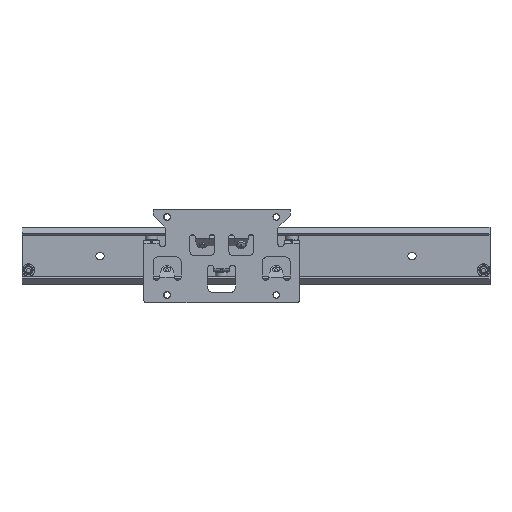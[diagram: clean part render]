
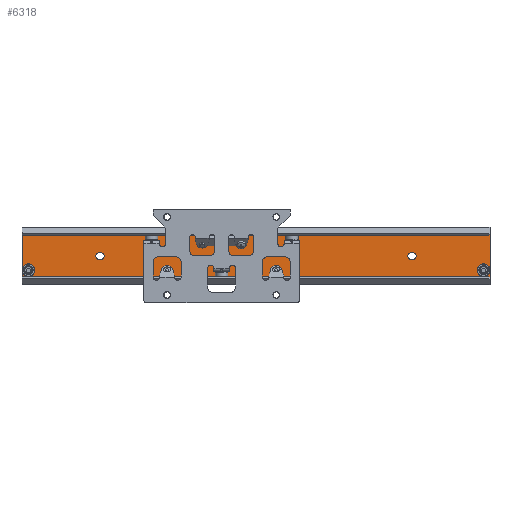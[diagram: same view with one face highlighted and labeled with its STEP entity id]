
A CAD part, top view. The second image highlights one B-rep face of the part: STEP entity #6318.
In plain terms, the highlighted planar face has unit normal (0, 0, 1).
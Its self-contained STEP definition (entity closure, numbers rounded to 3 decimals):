
#6149=CARTESIAN_POINT('',(306.032,407.71,-28.214));
#6150=VERTEX_POINT('',#6149);
#6151=CARTESIAN_POINT('',(306.032,441.71,-28.214));
#6152=VERTEX_POINT('',#6151);
#6153=CARTESIAN_POINT('',(306.032,441.71,-28.214));
#6154=DIRECTION('',(0.,1.,0.));
#6155=VECTOR('',#6154,1.);
#6156=LINE('',#6153,#6155);
#6157=EDGE_CURVE('',#6150,#6152,#6156,.T.);
#6158=ORIENTED_EDGE('',*,*,#6157,.T.);
#6159=CARTESIAN_POINT('',(6.032,441.71,-28.214));
#6160=VERTEX_POINT('',#6159);
#6161=CARTESIAN_POINT('',(6.032,441.71,-28.214));
#6162=DIRECTION('',(1.,0.,0.));
#6163=VECTOR('',#6162,1.);
#6164=LINE('',#6161,#6163);
#6165=EDGE_CURVE('',#6160,#6152,#6164,.T.);
#6166=ORIENTED_EDGE('',*,*,#6165,.F.);
#6167=CARTESIAN_POINT('',(6.032,407.71,-28.214));
#6168=VERTEX_POINT('',#6167);
#6169=CARTESIAN_POINT('',(6.032,441.71,-28.214));
#6170=DIRECTION('',(0.,-1.,0.));
#6171=VECTOR('',#6170,1.);
#6172=LINE('',#6169,#6171);
#6173=EDGE_CURVE('',#6160,#6168,#6172,.T.);
#6174=ORIENTED_EDGE('',*,*,#6173,.T.);
#6175=CARTESIAN_POINT('',(6.032,407.71,-28.214));
#6176=DIRECTION('',(1.,0.,0.));
#6177=VECTOR('',#6176,1.);
#6178=LINE('',#6175,#6177);
#6179=EDGE_CURVE('',#6168,#6150,#6178,.T.);
#6180=ORIENTED_EDGE('',*,*,#6179,.T.);
#6181=EDGE_LOOP('',(#6158,#6166,#6174,#6180));
#6182=FACE_OUTER_BOUND('',#6181,.T.);
#6183=CARTESIAN_POINT('',(300.579,415.71,-28.214));
#6184=VERTEX_POINT('',#6183);
#6185=CARTESIAN_POINT('',(301.932,415.71,-28.214));
#6186=DIRECTION('',(0.,0.,-1.));
#6187=DIRECTION('',(1.,0.,0.));
#6188=AXIS2_PLACEMENT_3D('',#6185,#6186,#6187);
#6189=CIRCLE('',#6188,1.353);
#6190=EDGE_CURVE('',#6184,#6184,#6189,.T.);
#6191=ORIENTED_EDGE('',*,*,#6190,.T.);
#6192=EDGE_LOOP('',(#6191));
#6193=FACE_BOUND('',#6192,.T.);
#6194=CARTESIAN_POINT('',(11.485,415.71,-28.214));
#6195=VERTEX_POINT('',#6194);
#6196=CARTESIAN_POINT('',(10.132,415.71,-28.214));
#6197=DIRECTION('',(0.,0.,-1.));
#6198=DIRECTION('',(-1.,0.,0.));
#6199=AXIS2_PLACEMENT_3D('',#6196,#6197,#6198);
#6200=CIRCLE('',#6199,1.353);
#6201=EDGE_CURVE('',#6195,#6195,#6200,.T.);
#6202=ORIENTED_EDGE('',*,*,#6201,.T.);
#6203=EDGE_LOOP('',(#6202));
#6204=FACE_BOUND('',#6203,.T.);
#6205=CARTESIAN_POINT('',(256.382,427.01,-28.214));
#6206=VERTEX_POINT('',#6205);
#6207=CARTESIAN_POINT('',(256.382,422.41,-28.214));
#6208=VERTEX_POINT('',#6207);
#6209=CARTESIAN_POINT('',(256.382,424.71,-28.214));
#6210=DIRECTION('',(0.,0.,-1.));
#6211=DIRECTION('',(1.,0.,0.));
#6212=AXIS2_PLACEMENT_3D('',#6209,#6210,#6211);
#6213=CIRCLE('',#6212,2.3);
#6214=EDGE_CURVE('',#6206,#6208,#6213,.T.);
#6215=ORIENTED_EDGE('',*,*,#6214,.T.);
#6216=CARTESIAN_POINT('',(255.682,422.41,-28.214));
#6217=VERTEX_POINT('',#6216);
#6218=CARTESIAN_POINT('',(131.032,422.41,-28.214));
#6219=DIRECTION('',(-1.,0.,0.));
#6220=VECTOR('',#6219,1.);
#6221=LINE('',#6218,#6220);
#6222=EDGE_CURVE('',#6208,#6217,#6221,.T.);
#6223=ORIENTED_EDGE('',*,*,#6222,.T.);
#6224=CARTESIAN_POINT('',(255.682,427.01,-28.214));
#6225=VERTEX_POINT('',#6224);
#6226=CARTESIAN_POINT('',(255.682,424.71,-28.214));
#6227=DIRECTION('',(0.,0.,-1.));
#6228=DIRECTION('',(1.,0.,0.));
#6229=AXIS2_PLACEMENT_3D('',#6226,#6227,#6228);
#6230=CIRCLE('',#6229,2.3);
#6231=EDGE_CURVE('',#6217,#6225,#6230,.T.);
#6232=ORIENTED_EDGE('',*,*,#6231,.T.);
#6233=CARTESIAN_POINT('',(131.032,427.01,-28.214));
#6234=DIRECTION('',(1.,0.,0.));
#6235=VECTOR('',#6234,1.);
#6236=LINE('',#6233,#6235);
#6237=EDGE_CURVE('',#6225,#6206,#6236,.T.);
#6238=ORIENTED_EDGE('',*,*,#6237,.T.);
#6239=EDGE_LOOP('',(#6215,#6223,#6232,#6238));
#6240=FACE_BOUND('',#6239,.T.);
#6241=CARTESIAN_POINT('',(156.382,422.41,-28.214));
#6242=VERTEX_POINT('',#6241);
#6243=CARTESIAN_POINT('',(155.682,422.41,-28.214));
#6244=VERTEX_POINT('',#6243);
#6245=CARTESIAN_POINT('',(81.032,422.41,-28.214));
#6246=DIRECTION('',(-1.,0.,0.));
#6247=VECTOR('',#6246,1.);
#6248=LINE('',#6245,#6247);
#6249=EDGE_CURVE('',#6242,#6244,#6248,.T.);
#6250=ORIENTED_EDGE('',*,*,#6249,.T.);
#6251=CARTESIAN_POINT('',(155.682,427.01,-28.214));
#6252=VERTEX_POINT('',#6251);
#6253=CARTESIAN_POINT('',(155.682,424.71,-28.214));
#6254=DIRECTION('',(0.,0.,-1.));
#6255=DIRECTION('',(1.,0.,0.));
#6256=AXIS2_PLACEMENT_3D('',#6253,#6254,#6255);
#6257=CIRCLE('',#6256,2.3);
#6258=EDGE_CURVE('',#6244,#6252,#6257,.T.);
#6259=ORIENTED_EDGE('',*,*,#6258,.T.);
#6260=CARTESIAN_POINT('',(156.382,427.01,-28.214));
#6261=VERTEX_POINT('',#6260);
#6262=CARTESIAN_POINT('',(81.032,427.01,-28.214));
#6263=DIRECTION('',(1.,0.,0.));
#6264=VECTOR('',#6263,1.);
#6265=LINE('',#6262,#6264);
#6266=EDGE_CURVE('',#6252,#6261,#6265,.T.);
#6267=ORIENTED_EDGE('',*,*,#6266,.T.);
#6268=CARTESIAN_POINT('',(156.382,424.71,-28.214));
#6269=DIRECTION('',(0.,0.,-1.));
#6270=DIRECTION('',(1.,0.,0.));
#6271=AXIS2_PLACEMENT_3D('',#6268,#6269,#6270);
#6272=CIRCLE('',#6271,2.3);
#6273=EDGE_CURVE('',#6261,#6242,#6272,.T.);
#6274=ORIENTED_EDGE('',*,*,#6273,.T.);
#6275=EDGE_LOOP('',(#6250,#6259,#6267,#6274));
#6276=FACE_BOUND('',#6275,.T.);
#6277=CARTESIAN_POINT('',(55.682,422.41,-28.214));
#6278=VERTEX_POINT('',#6277);
#6279=CARTESIAN_POINT('',(55.682,427.01,-28.214));
#6280=VERTEX_POINT('',#6279);
#6281=CARTESIAN_POINT('',(55.682,424.71,-28.214));
#6282=DIRECTION('',(0.,0.,-1.));
#6283=DIRECTION('',(1.,0.,0.));
#6284=AXIS2_PLACEMENT_3D('',#6281,#6282,#6283);
#6285=CIRCLE('',#6284,2.3);
#6286=EDGE_CURVE('',#6278,#6280,#6285,.T.);
#6287=ORIENTED_EDGE('',*,*,#6286,.T.);
#6288=CARTESIAN_POINT('',(56.382,427.01,-28.214));
#6289=VERTEX_POINT('',#6288);
#6290=CARTESIAN_POINT('',(31.032,427.01,-28.214));
#6291=DIRECTION('',(1.,0.,0.));
#6292=VECTOR('',#6291,1.);
#6293=LINE('',#6290,#6292);
#6294=EDGE_CURVE('',#6280,#6289,#6293,.T.);
#6295=ORIENTED_EDGE('',*,*,#6294,.T.);
#6296=CARTESIAN_POINT('',(56.382,422.41,-28.214));
#6297=VERTEX_POINT('',#6296);
#6298=CARTESIAN_POINT('',(56.382,424.71,-28.214));
#6299=DIRECTION('',(0.,0.,-1.));
#6300=DIRECTION('',(1.,0.,0.));
#6301=AXIS2_PLACEMENT_3D('',#6298,#6299,#6300);
#6302=CIRCLE('',#6301,2.3);
#6303=EDGE_CURVE('',#6289,#6297,#6302,.T.);
#6304=ORIENTED_EDGE('',*,*,#6303,.T.);
#6305=CARTESIAN_POINT('',(31.032,422.41,-28.214));
#6306=DIRECTION('',(-1.,0.,0.));
#6307=VECTOR('',#6306,1.);
#6308=LINE('',#6305,#6307);
#6309=EDGE_CURVE('',#6297,#6278,#6308,.T.);
#6310=ORIENTED_EDGE('',*,*,#6309,.T.);
#6311=EDGE_LOOP('',(#6287,#6295,#6304,#6310));
#6312=FACE_BOUND('',#6311,.T.);
#6313=CARTESIAN_POINT('',(6.032,424.71,-28.214));
#6314=DIRECTION('',(0.,0.,1.));
#6315=DIRECTION('',(0.,-1.,0.));
#6316=AXIS2_PLACEMENT_3D('',#6313,#6314,#6315);
#6317=PLANE('',#6316);
#6318=ADVANCED_FACE('',(#6182,#6193,#6204,#6240,#6276,#6312),#6317,.T.);
